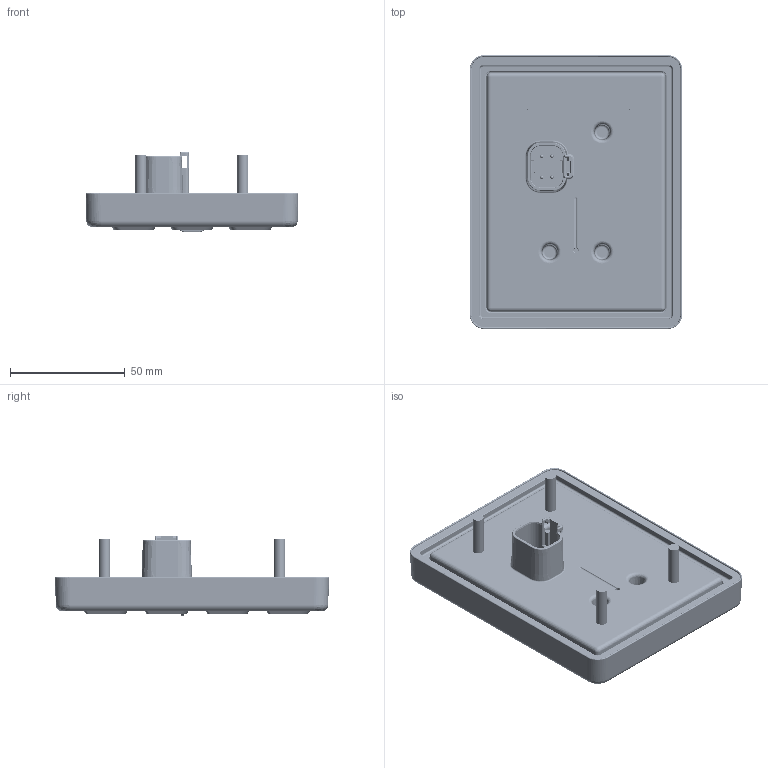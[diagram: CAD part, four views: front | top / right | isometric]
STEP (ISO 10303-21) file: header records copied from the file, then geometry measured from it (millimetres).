
FILE_DESCRIPTION (( 'STEP AP214' ), '1' );
FILE_NAME ('CL-6043_4X3_05MAR2025.STEP', '2025-03-05T18:20:31', ( '' ), ( '' ), 'SwSTEP 2.0', 'SolidWorks 2024', '' );
FILE_SCHEMA (( 'AUTOMOTIVE_DESIGN' ));
Length unit declared in the file: millimetre
Products named in the file (14): 186-27-600_02; 175-0314-S0-G_PIN; 186-27-600; 485-15-604; CL-6043-502; CL-6043-501; 175-0314-S0-G; PM-067-400-G; CL-6043_4X3_05MAR2025; 415-11-618; 171-02-624; CL-6043-500; 186-27-600_01
Assembly tree (18 placements, depth 4):
  CL-6043_4X3_05MAR2025
    186-27-600
      186-27-600_01
      186-27-600_02
    PM-067-400-G
      175-0314-S0-G
        175-0314-S0-G
        175-0314-S0-G_PIN  x4
    CL-6043-502
      CL-6043-500
        CL-6043-501
        415-11-618  x4
      485-15-604
  171-02-624
Bounding box: 92.69 x 119.36 x 35 mm (x, y, z)
Volume: 84713.6 mm3; surface area: 88465.8 mm2
Topology: 14 solids, 17 shells, 9180 faces, 22729 edges, 13704 vertices
Faces by surface type: plane 2800, cylinder 2414, bspline 1815, cone 1223, torus 555, sphere 373
Entity records: 317556 total; most frequent: CARTESIAN_POINT 122805, ORIENTED_EDGE 42874, DIRECTION 38905, EDGE_CURVE 21437, AXIS2_PLACEMENT_3D 14545, VERTEX_POINT 12971, VECTOR 9815, LINE 9815
